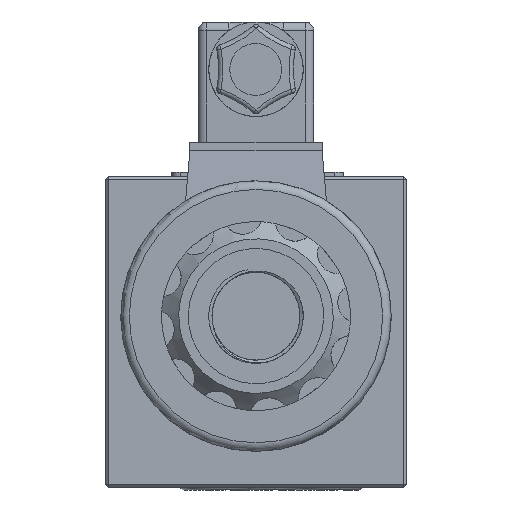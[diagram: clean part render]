
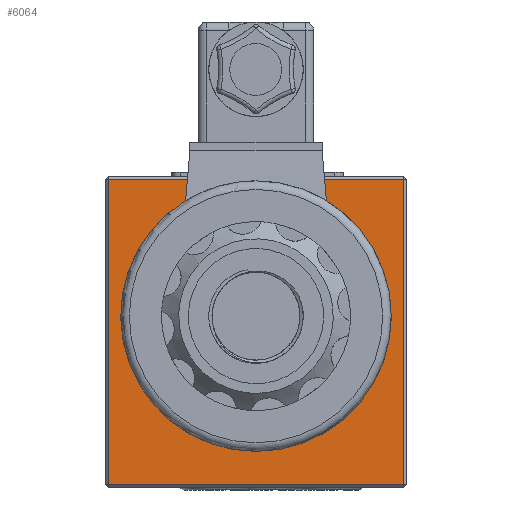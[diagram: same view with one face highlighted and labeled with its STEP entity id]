
A CAD part, left-side view. The second image highlights one B-rep face of the part: STEP entity #6064.
In plain terms, the highlighted planar face has unit normal (-1, 0, 0).
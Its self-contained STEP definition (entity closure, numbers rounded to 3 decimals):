
#3260=LINE('',#21451,#4437);
#3261=LINE('',#21454,#4438);
#3262=LINE('',#21456,#4439);
#3263=LINE('',#21458,#4440);
#4437=VECTOR('',#16321,1.);
#4438=VECTOR('',#16322,1.);
#4439=VECTOR('',#16323,1.);
#4440=VECTOR('',#16324,1.);
#5561=PLANE('',#14854);
#6064=ADVANCED_FACE('',(#6971,#6972,#6973,#6974),#5561,.T.);
#6971=FACE_BOUND('',#7317,.T.);
#6972=FACE_BOUND('',#7318,.T.);
#6973=FACE_BOUND('',#7319,.T.);
#6974=FACE_BOUND('',#7320,.T.);
#7317=EDGE_LOOP('',(#8571));
#7318=EDGE_LOOP('',(#8572));
#7319=EDGE_LOOP('',(#8573));
#7320=EDGE_LOOP('',(#8574,#8575,#8576,#8577));
#8571=ORIENTED_EDGE('',*,*,#13001,.T.);
#8572=ORIENTED_EDGE('',*,*,#13002,.T.);
#8573=ORIENTED_EDGE('',*,*,#13003,.T.);
#8574=ORIENTED_EDGE('',*,*,#13004,.T.);
#8575=ORIENTED_EDGE('',*,*,#13005,.T.);
#8576=ORIENTED_EDGE('',*,*,#13006,.T.);
#8577=ORIENTED_EDGE('',*,*,#13007,.T.);
#11803=VERTEX_POINT('',#21446);
#11804=VERTEX_POINT('',#21448);
#11805=VERTEX_POINT('',#21450);
#11806=VERTEX_POINT('',#21452);
#11807=VERTEX_POINT('',#21453);
#11808=VERTEX_POINT('',#21455);
#11809=VERTEX_POINT('',#21457);
#13001=EDGE_CURVE('',#11803,#11803,#14435,.T.);
#13002=EDGE_CURVE('',#11804,#11804,#14436,.T.);
#13003=EDGE_CURVE('',#11805,#11805,#14437,.T.);
#13004=EDGE_CURVE('',#11806,#11807,#3260,.T.);
#13005=EDGE_CURVE('',#11807,#11808,#3261,.T.);
#13006=EDGE_CURVE('',#11808,#11809,#3262,.T.);
#13007=EDGE_CURVE('',#11809,#11806,#3263,.T.);
#14435=CIRCLE('',#14851,1.8);
#14436=CIRCLE('',#14852,1.8);
#14437=CIRCLE('',#14853,1.8);
#14851=AXIS2_PLACEMENT_3D('',#21445,#16315,#16316);
#14852=AXIS2_PLACEMENT_3D('',#21447,#16317,#16318);
#14853=AXIS2_PLACEMENT_3D('',#21449,#16319,#16320);
#14854=AXIS2_PLACEMENT_3D('',#21459,#16325,#16326);
#16315=DIRECTION('',(1.,0.,0.));
#16316=DIRECTION('',(0.,0.,-1.));
#16317=DIRECTION('',(1.,0.,0.));
#16318=DIRECTION('',(0.,0.,-1.));
#16319=DIRECTION('',(1.,0.,0.));
#16320=DIRECTION('',(0.,0.,-1.));
#16321=DIRECTION('',(0.,0.,1.));
#16322=DIRECTION('',(0.,1.,0.));
#16323=DIRECTION('',(0.,0.,-1.));
#16324=DIRECTION('',(0.,-1.,0.));
#16325=DIRECTION('',(-1.,0.,0.));
#16326=DIRECTION('',(0.,0.,-1.));
#21445=CARTESIAN_POINT('',(0.,54.,-32.5));
#21446=CARTESIAN_POINT('',(0.,54.,-34.3));
#21447=CARTESIAN_POINT('',(0.,35.,-51.5));
#21448=CARTESIAN_POINT('',(0.,35.,-53.3));
#21449=CARTESIAN_POINT('',(0.,16.,-32.5));
#21450=CARTESIAN_POINT('',(0.,16.,-34.3));
#21451=CARTESIAN_POINT('',(0.,0.7,-72.5));
#21452=CARTESIAN_POINT('',(0.,0.7,-71.8));
#21453=CARTESIAN_POINT('',(0.,0.7,-0.7));
#21454=CARTESIAN_POINT('',(0.,70.,-0.7));
#21455=CARTESIAN_POINT('',(0.,69.3,-0.7));
#21456=CARTESIAN_POINT('',(0.,69.3,-72.5));
#21457=CARTESIAN_POINT('',(0.,69.3,-71.8));
#21458=CARTESIAN_POINT('',(0.,0.,-71.8));
#21459=CARTESIAN_POINT('',(0.,70.,-72.5));
